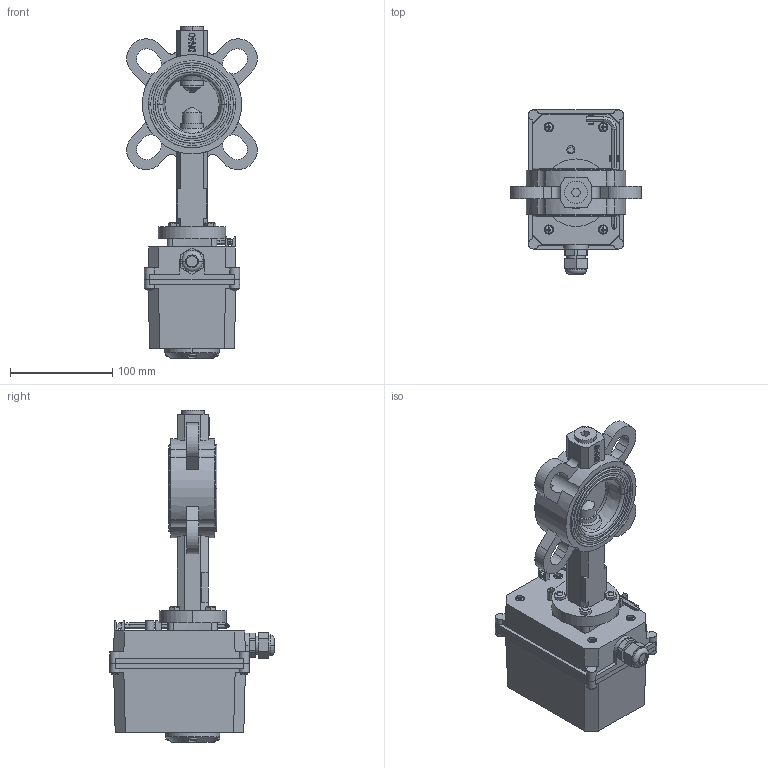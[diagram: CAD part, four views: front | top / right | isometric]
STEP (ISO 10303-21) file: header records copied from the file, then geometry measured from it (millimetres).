
FILE_DESCRIPTION((''),'2;1');
FILE_NAME('VBS_111_EARP_T_ASM','2025-02-21T',('USER'),(''),'PRO/ENGINEER BY PARAMETRIC TECHNOLOGY CORPORATION, 2011220','PRO/ENGINEER BY PARAMETRIC TECHNOLOGY CORPORATION, 2011220','');
FILE_SCHEMA(('CONFIG_CONTROL_DESIGN'));
Length unit declared in the file: millimetre
Products named in the file (20): KORPUS; REZ; DISK; SHTIR_1; ZAGLUSHKA; O-RING; SHTIR_2; SHAIBA_RAZREZ; SHAIBA; KOLCO_22_GOST13943; VTULKA; MANZET_REZ; SB_ASM; B-7798-M6-20; ELECTROPRIVOD; ELECTROPRIVOD_DET_2; SHLYAPKA_VINTA; KLYCH; SB_ELECTROPRIVOD_ASM; VBS_111_EARP_T_ASM
Assembly tree (39 placements, depth 3):
  VBS_111_EARP_T_ASM
    SB_ASM
      KORPUS
      REZ
      DISK
      SHTIR_1
      ZAGLUSHKA
      O-RING  x2
      SHTIR_2
      SHAIBA_RAZREZ
      SHAIBA  x2
      KOLCO_22_GOST13943
      VTULKA  x5
      MANZET_REZ
    B-7798-M6-20  x4
    SB_ELECTROPRIVOD_ASM
      ELECTROPRIVOD
      ELECTROPRIVOD_DET_2
      SHLYAPKA_VINTA  x12
      KLYCH
Bounding box: 127.66 x 160.5 x 324.5 mm (x, y, z)
Volume: 1518563.8 mm3; surface area: 246852.7 mm2
Topology: 37 solids, 52 shells, 1065 faces, 2706 edges, 1750 vertices
Faces by surface type: plane 662, cylinder 279, cone 66, torus 34, sphere 24
Entity records: 24762 total; most frequent: CARTESIAN_POINT 4699, DIRECTION 4313, ORIENTED_EDGE 3928, EDGE_CURVE 1988, AXIS2_PLACEMENT_3D 1526, VERTEX_POINT 1298, VECTOR 1261, LINE 1261
